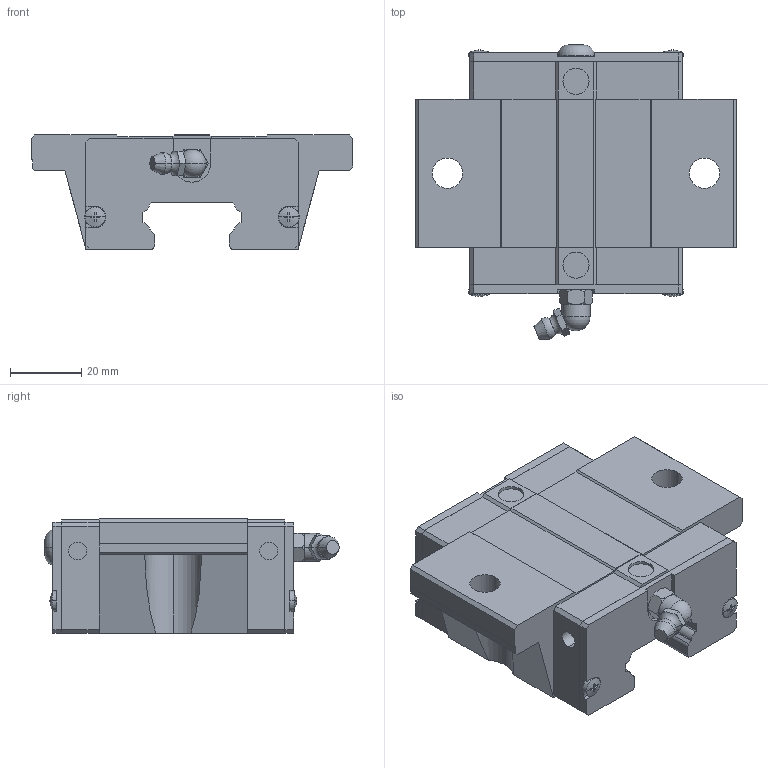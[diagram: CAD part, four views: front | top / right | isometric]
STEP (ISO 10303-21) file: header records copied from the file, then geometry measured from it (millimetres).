
FILE_DESCRIPTION(('no description'),'unknown implementation level');
FILE_NAME('QEW30SC_Z0_H_SS_28.stp',' ',('HIWIN GmbH'),('CADClick - KiM GmbH - www.kimweb.de'),'unknown preprocess','ACIS','unknown authorization');
FILE_SCHEMA(('automotive_design'));
Length unit declared in the file: millimetre
Products named in the file (1): QEW30SC Z0 H SS
Bounding box: 90 x 82.41 x 32 mm (x, y, z)
Volume: 119126.9 mm3; surface area: 22660.9 mm2
Topology: 1 solids, 5 shells, 354 faces, 951 edges, 615 vertices
Faces by surface type: plane 216, cylinder 80, cone 38, torus 18, sphere 2
Entity records: 22064 total; most frequent: CARTESIAN_POINT 2615, STYLED_ITEM 1919, PRESENTATION_STYLE_ASSIGNMENT 1919, COLOUR_RGB 1919, ORIENTED_EDGE 1898, DIRECTION 1786, EDGE_CURVE 949, CURVE_STYLE 949
